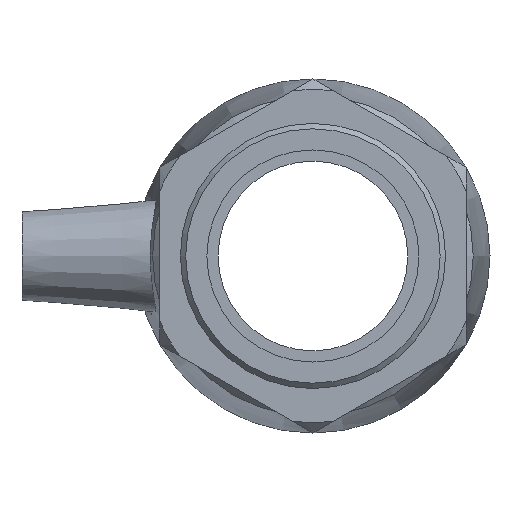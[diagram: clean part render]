
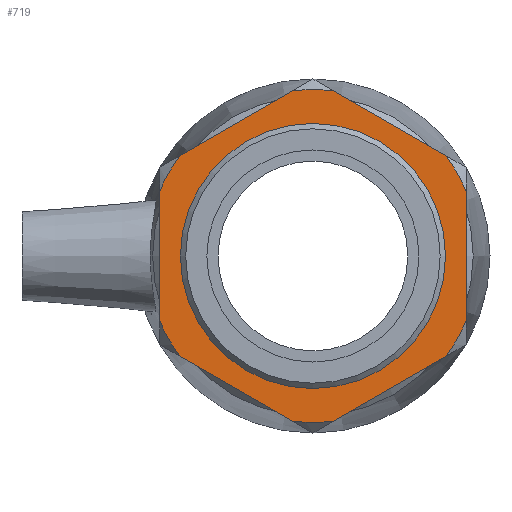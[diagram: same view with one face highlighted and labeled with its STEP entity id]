
A CAD part, left-side view. The second image highlights one B-rep face of the part: STEP entity #719.
In plain terms, the highlighted planar face has unit normal (-1, 0, 0).
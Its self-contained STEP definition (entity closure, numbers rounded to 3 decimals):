
#38=FACE_BOUND('',#220,.T.);
#65=CIRCLE('',#759,26.32);
#66=CIRCLE('',#761,26.32);
#67=CIRCLE('',#763,26.32);
#68=CIRCLE('',#765,26.32);
#69=CIRCLE('',#767,26.32);
#70=CIRCLE('',#769,26.32);
#86=CIRCLE('',#799,20.955);
#156=FACE_OUTER_BOUND('',#219,.T.);
#219=EDGE_LOOP('',(#606,#607,#608,#609,#610,#611,#612,#613,#614,#615,#616,
#617));
#220=EDGE_LOOP('',(#618));
#275=LINE('',#1077,#293);
#279=LINE('',#1101,#297);
#285=LINE('',#1141,#303);
#286=LINE('',#1148,#304);
#289=LINE('',#1170,#307);
#292=LINE('',#1201,#310);
#293=VECTOR('',#855,20.469);
#297=VECTOR('',#861,20.469);
#303=VECTOR('',#869,20.469);
#304=VECTOR('',#872,20.469);
#307=VECTOR('',#877,20.469);
#310=VECTOR('',#882,20.469);
#335=VERTEX_POINT('',#1071);
#337=VERTEX_POINT('',#1076);
#343=VERTEX_POINT('',#1096);
#344=VERTEX_POINT('',#1100);
#350=VERTEX_POINT('',#1119);
#356=VERTEX_POINT('',#1137);
#357=VERTEX_POINT('',#1143);
#358=VERTEX_POINT('',#1147);
#363=VERTEX_POINT('',#1165);
#364=VERTEX_POINT('',#1169);
#367=VERTEX_POINT('',#1184);
#370=VERTEX_POINT('',#1197);
#382=VERTEX_POINT('',#1322);
#407=EDGE_CURVE('',#337,#335,#275,.T.);
#415=EDGE_CURVE('',#344,#343,#279,.T.);
#428=EDGE_CURVE('',#350,#356,#285,.T.);
#430=EDGE_CURVE('',#358,#357,#286,.T.);
#437=EDGE_CURVE('',#364,#363,#289,.T.);
#447=EDGE_CURVE('',#367,#370,#292,.T.);
#448=EDGE_CURVE('',#358,#363,#65,.T.);
#449=EDGE_CURVE('',#364,#356,#66,.T.);
#450=EDGE_CURVE('',#350,#370,#67,.T.);
#451=EDGE_CURVE('',#344,#357,#68,.T.);
#452=EDGE_CURVE('',#337,#343,#69,.T.);
#453=EDGE_CURVE('',#367,#335,#70,.T.);
#471=EDGE_CURVE('',#382,#382,#86,.T.);
#606=ORIENTED_EDGE('',*,*,#407,.T.);
#607=ORIENTED_EDGE('',*,*,#453,.F.);
#608=ORIENTED_EDGE('',*,*,#447,.T.);
#609=ORIENTED_EDGE('',*,*,#450,.F.);
#610=ORIENTED_EDGE('',*,*,#428,.T.);
#611=ORIENTED_EDGE('',*,*,#449,.F.);
#612=ORIENTED_EDGE('',*,*,#437,.T.);
#613=ORIENTED_EDGE('',*,*,#448,.F.);
#614=ORIENTED_EDGE('',*,*,#430,.T.);
#615=ORIENTED_EDGE('',*,*,#451,.F.);
#616=ORIENTED_EDGE('',*,*,#415,.T.);
#617=ORIENTED_EDGE('',*,*,#452,.F.);
#618=ORIENTED_EDGE('',*,*,#471,.T.);
#682=PLANE('',#798);
#719=ADVANCED_FACE('',(#156,#38),#682,.T.);
#759=AXIS2_PLACEMENT_3D('',#1203,#885,#886);
#761=AXIS2_PLACEMENT_3D('',#1205,#889,#890);
#763=AXIS2_PLACEMENT_3D('',#1207,#893,#894);
#765=AXIS2_PLACEMENT_3D('',#1209,#897,#898);
#767=AXIS2_PLACEMENT_3D('',#1211,#901,#902);
#769=AXIS2_PLACEMENT_3D('',#1213,#905,#906);
#798=AXIS2_PLACEMENT_3D('',#1321,#963,#964);
#799=AXIS2_PLACEMENT_3D('',#1323,#965,#966);
#855=DIRECTION('',(0.,0.866,0.5));
#861=DIRECTION('',(0.,0.,1.));
#869=DIRECTION('',(0.,0.,-1.));
#872=DIRECTION('',(0.,-0.866,0.5));
#877=DIRECTION('',(0.,-0.866,-0.5));
#882=DIRECTION('',(0.,0.866,-0.5));
#885=DIRECTION('center_axis',(1.,0.,0.));
#886=DIRECTION('ref_axis',(0.,-1.,0.));
#889=DIRECTION('center_axis',(1.,0.,0.));
#890=DIRECTION('ref_axis',(0.,-1.,0.));
#893=DIRECTION('center_axis',(1.,0.,0.));
#894=DIRECTION('ref_axis',(0.,-1.,0.));
#897=DIRECTION('center_axis',(1.,0.,0.));
#898=DIRECTION('ref_axis',(0.,-1.,0.));
#901=DIRECTION('center_axis',(1.,0.,0.));
#902=DIRECTION('ref_axis',(0.,-1.,0.));
#905=DIRECTION('center_axis',(1.,0.,0.));
#906=DIRECTION('ref_axis',(0.,-1.,0.));
#963=DIRECTION('center_axis',(-1.,0.,0.));
#964=DIRECTION('ref_axis',(0.,0.,1.));
#965=DIRECTION('center_axis',(1.,0.,0.));
#966=DIRECTION('ref_axis',(0.,0.,-1.));
#1071=CARTESIAN_POINT('',(-62.85,-3.261,26.117));
#1076=CARTESIAN_POINT('',(-62.85,-20.988,15.883));
#1077=CARTESIAN_POINT('',(-62.85,4.438,30.562));
#1096=CARTESIAN_POINT('',(-62.85,-24.249,10.234));
#1100=CARTESIAN_POINT('',(-62.85,-24.249,-10.234));
#1101=CARTESIAN_POINT('',(-62.85,-24.249,7.));
#1119=CARTESIAN_POINT('',(-62.85,24.249,10.234));
#1137=CARTESIAN_POINT('',(-62.85,24.249,-10.234));
#1141=CARTESIAN_POINT('',(-62.85,24.249,-7.));
#1143=CARTESIAN_POINT('',(-62.85,-20.988,-15.883));
#1147=CARTESIAN_POINT('',(-62.85,-3.261,-26.117));
#1148=CARTESIAN_POINT('',(-62.85,-7.687,-23.562));
#1165=CARTESIAN_POINT('',(-62.85,3.261,-26.117));
#1169=CARTESIAN_POINT('',(-62.85,20.988,-15.883));
#1170=CARTESIAN_POINT('',(-62.85,16.562,-18.438));
#1184=CARTESIAN_POINT('',(-62.85,3.261,26.117));
#1197=CARTESIAN_POINT('',(-62.85,20.988,15.883));
#1201=CARTESIAN_POINT('',(-62.85,28.687,11.438));
#1203=CARTESIAN_POINT('Origin',(-62.85,0.,0.));
#1205=CARTESIAN_POINT('Origin',(-62.85,0.,0.));
#1207=CARTESIAN_POINT('Origin',(-62.85,0.,0.));
#1209=CARTESIAN_POINT('Origin',(-62.85,0.,0.));
#1211=CARTESIAN_POINT('Origin',(-62.85,0.,0.));
#1213=CARTESIAN_POINT('Origin',(-62.85,0.,0.));
#1321=CARTESIAN_POINT('Origin',(-62.85,28.,0.));
#1322=CARTESIAN_POINT('',(-62.85,20.955,0.));
#1323=CARTESIAN_POINT('Origin',(-62.85,0.,0.));
